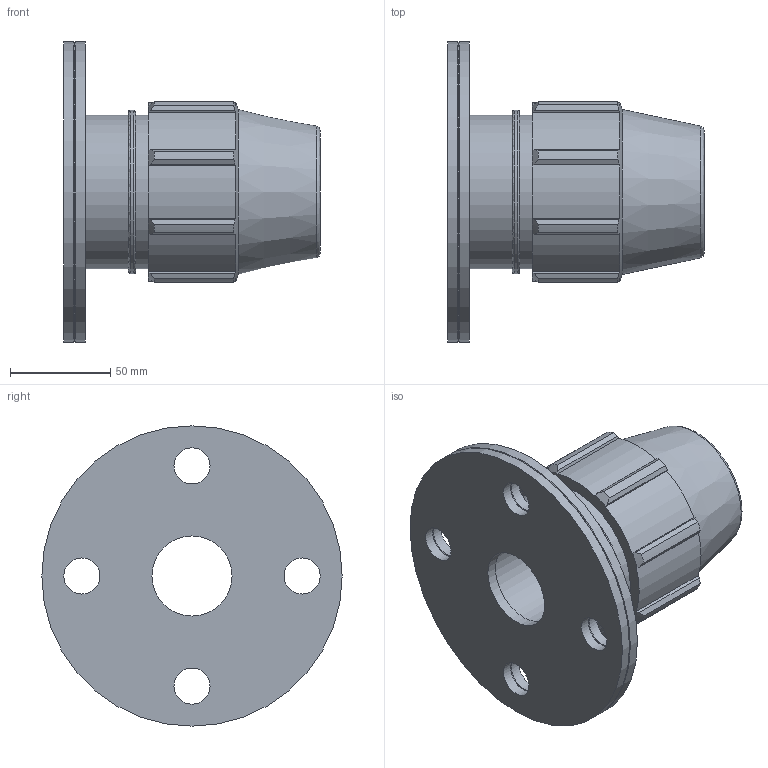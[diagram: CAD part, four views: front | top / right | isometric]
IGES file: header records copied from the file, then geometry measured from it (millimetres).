
Global section: file name: 072200050015_182200050015_0722060500150A.ipt; native system: Autodesk Inventor 2015; preprocessor: unknown; author: KIM; date: 20170606.172335; units: millimetre
Bounding box: 128 x 150 x 150 mm (x, y, z)
Volume: 542868.3 mm3; surface area: 94795.4 mm2
Topology: 1 solids, 1 shells, 100 faces, 286 edges, 195 vertices
Faces by surface type: plane 41, revolution 26, cylinder 21, cone 12
Full cylindrical faces by diameter (mm): 76.8 x2, 81.6 x1, 150 x2
